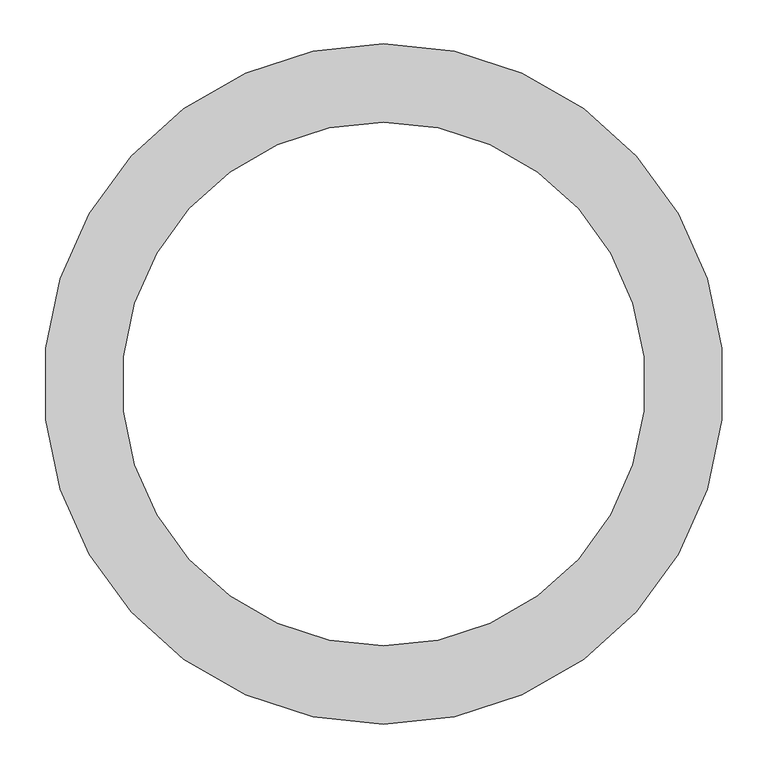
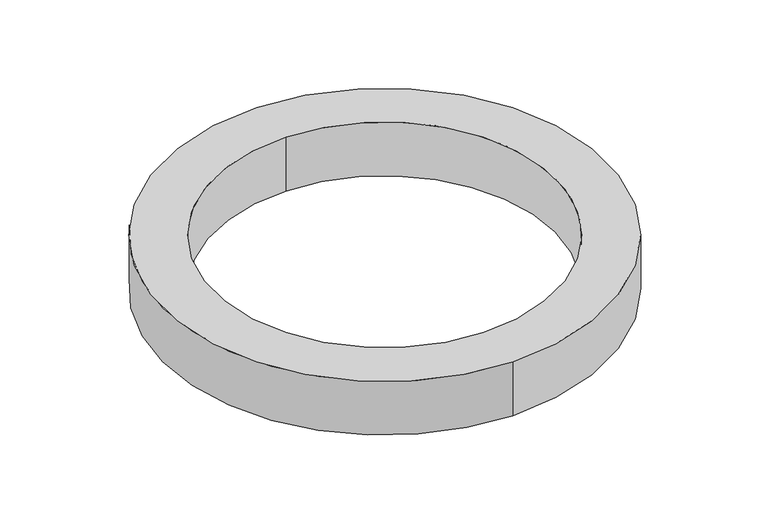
"""IFC4 building model written with IfcOpenShell, lengths in millimetres: valve geometry, Pipelife - Studnia PRO - Pierścień : Studnia Pierścień dystansowy 600 H=100."""

from ifc_helpers import new_model, si_unit, point, origin, origin_with_axes, origin_2d, place, context, project, spatial, circle_curve, trimmed, segment, composite_curve, outline, extrude, source, transform, mapped, element, save


def valve_ca00817b(model_context):
    return source(origin(), model_context, "Body", "SweptSolid", [
        extrude(outline(composite_curve([segment(trimmed(circle_curve(origin_2d(), 390.0), [point((0.0, 390.0))], [point((0.0, -390.0))], False, "CARTESIAN"), True, "CONTINUOUS"), segment(trimmed(circle_curve(origin_2d(), 390.0), [point((0.0, -390.0))], [point((0.0, 390.0))], False, "CARTESIAN"), True, "CONTINUOUS")], self_intersect=False), holes=[composite_curve([segment(trimmed(circle_curve(origin_2d(), 300.0), [point((0.0, 300.0))], [point((0.0, -300.0))], True, "CARTESIAN"), True, "CONTINUOUS"), segment(trimmed(circle_curve(origin_2d(), 300.0), [point((0.0, -300.0))], [point((0.0, 300.0))], True, "CARTESIAN"), True, "CONTINUOUS")], self_intersect=False)]), origin_with_axes(), (0.0, 0.0, 1.0), 100.0),
    ])


if __name__ == "__main__":
    model = new_model("IFC4")
    model_context = context("Model", 3, world=origin())
    ifc_project = project(units=[si_unit("LENGTHUNIT", "METRE", prefix="MILLI")], contexts=[model_context])
    site = spatial("IfcSite", under=ifc_project)
    building = spatial("IfcBuilding", under=site)
    placement = place(None, origin())
    valve_shape = valve_ca00817b(model_context)
    element("IfcValve", 1, ObjectType="Pipelife - Studnia PRO - Pierścień : Studnia Pierścień dystansowy 600 H=100", at=placement, inside=building, context=model_context, shape_type="MappedRepresentation", body=[
        mapped(valve_shape, transform((0.0, 0.0, 0.0), x_axis=(1.0, 0.0, 0.0), y_axis=(0.0, 1.0, 0.0), z_axis=(0.0, 0.0, 1.0))),
    ])
    save(model, "model.ifc")
